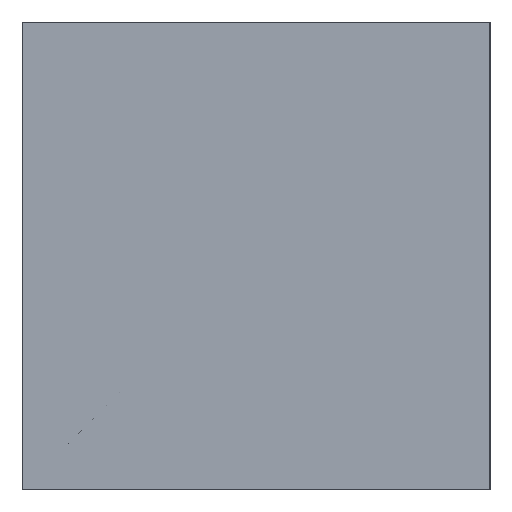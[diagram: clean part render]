
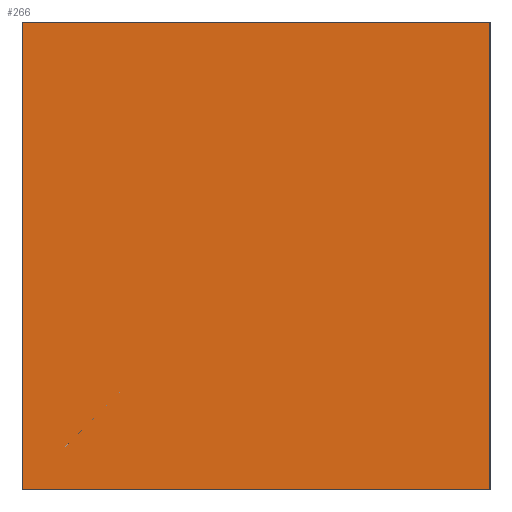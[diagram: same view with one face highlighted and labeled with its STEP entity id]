
A CAD part, left-side view. The second image highlights one B-rep face of the part: STEP entity #266.
In plain terms, the highlighted planar face has unit normal (-1, 0, 0).
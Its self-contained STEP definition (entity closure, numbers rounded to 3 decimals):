
#39 = ORIENTED_EDGE ( 'NONE', *, *, #89, .F. ) ;
#72 = EDGE_CURVE ( 'NONE', #155, #434, #102, .T. ) ;
#89 = EDGE_CURVE ( 'NONE', #620, #155, #156, .T. ) ;
#93 = ORIENTED_EDGE ( 'NONE', *, *, #372, .T. ) ;
#95 = CARTESIAN_POINT ( 'NONE',  ( -16.959, 20., -7.364 ) ) ;
#102 = LINE ( 'NONE', #457, #610 ) ;
#111 = EDGE_LOOP ( 'NONE', ( #297, #264, #39, #93 ) ) ;
#118 = CARTESIAN_POINT ( 'NONE',  ( -16.959, 20., -7.364 ) ) ;
#123 = PLANE ( 'NONE',  #192 ) ;
#153 = CARTESIAN_POINT ( 'NONE',  ( -16.959, 20., 12.636 ) ) ;
#155 = VERTEX_POINT ( 'NONE', #153 ) ;
#156 = LINE ( 'NONE', #95, #426 ) ;
#171 = VECTOR ( 'NONE', #199, 1000. ) ;
#192 = AXIS2_PLACEMENT_3D ( 'NONE', #118, #220, #520 ) ;
#199 = DIRECTION ( 'NONE',  ( 0., 0., 1. ) ) ;
#220 = DIRECTION ( 'NONE',  ( 1., 0., 0. ) ) ;
#236 = CARTESIAN_POINT ( 'NONE',  ( -16.959, 0., 12.636 ) ) ;
#264 = ORIENTED_EDGE ( 'NONE', *, *, #72, .F. ) ;
#266 = ADVANCED_FACE ( 'NONE', ( #475 ), #123, .F. ) ;
#270 = CARTESIAN_POINT ( 'NONE',  ( -16.959, 20., -7.364 ) ) ;
#297 = ORIENTED_EDGE ( 'NONE', *, *, #492, .T. ) ;
#332 = VERTEX_POINT ( 'NONE', #619 ) ;
#372 = EDGE_CURVE ( 'NONE', #620, #332, #579, .T. ) ;
#398 = DIRECTION ( 'NONE',  ( 0., -1., 0. ) ) ;
#426 = VECTOR ( 'NONE', #461, 1000. ) ;
#434 = VERTEX_POINT ( 'NONE', #236 ) ;
#457 = CARTESIAN_POINT ( 'NONE',  ( -16.959, 20., 12.636 ) ) ;
#461 = DIRECTION ( 'NONE',  ( 0., 0., 1. ) ) ;
#474 = VECTOR ( 'NONE', #398, 1000. ) ;
#475 = FACE_OUTER_BOUND ( 'NONE', #111, .T. ) ;
#492 = EDGE_CURVE ( 'NONE', #332, #434, #502, .T. ) ;
#495 = CARTESIAN_POINT ( 'NONE',  ( -16.959, 0., -7.364 ) ) ;
#502 = LINE ( 'NONE', #495, #171 ) ;
#520 = DIRECTION ( 'NONE',  ( 0., 0., -1. ) ) ;
#550 = DIRECTION ( 'NONE',  ( 0., -1., 0. ) ) ;
#570 = CARTESIAN_POINT ( 'NONE',  ( -16.959, 20., -7.364 ) ) ;
#579 = LINE ( 'NONE', #570, #474 ) ;
#610 = VECTOR ( 'NONE', #550, 1000. ) ;
#619 = CARTESIAN_POINT ( 'NONE',  ( -16.959, 0., -7.364 ) ) ;
#620 = VERTEX_POINT ( 'NONE', #270 ) ;
